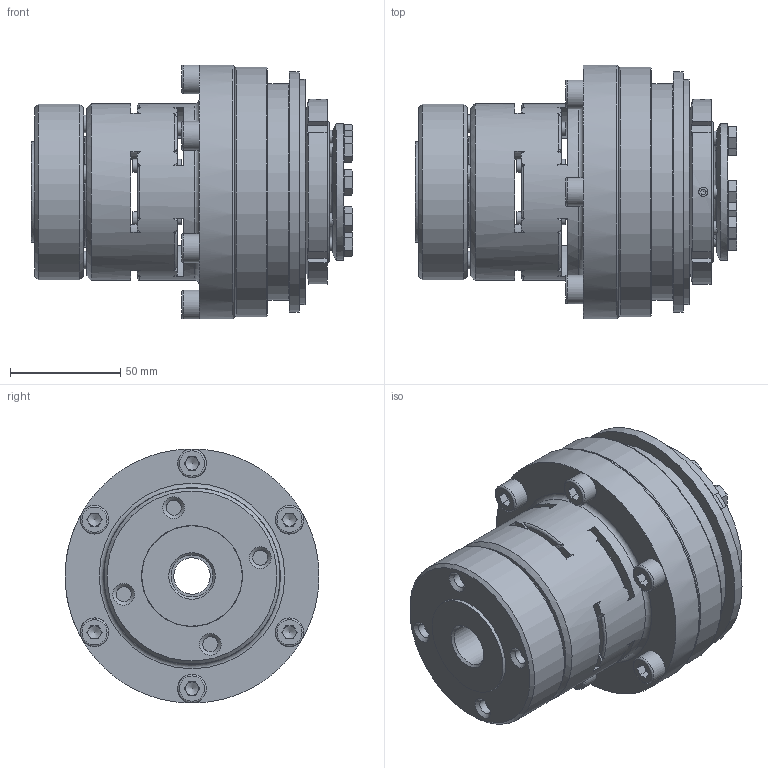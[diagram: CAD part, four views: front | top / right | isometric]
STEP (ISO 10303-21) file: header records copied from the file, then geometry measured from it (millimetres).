
FILE_DESCRIPTION( ( 'Unknown' ), '1' );
FILE_NAME( 'F:/JAKOB-STEP+IGES-Dateien/STEP-Dateien/SKY-ES/SKY-ES 230.stp', 'Unknown', ( 'Unknown' ), ( 'Unknown' ), 'PSStep 10.1', 'Unknown', ' ' );
FILE_SCHEMA( ( 'AUTOMOTIVE_DESIGN { 1 0 10303 214 1 1 1 1 }' ) );
Length unit declared in the file: millimetre
Products named in the file (1): kt100627
Bounding box: 145.5 x 115 x 115 mm (x, y, z)
Volume: 736816.6 mm3; surface area: 174242.8 mm2
Topology: 1 solids, 15 shells, 737 faces, 1951 edges, 1251 vertices
Faces by surface type: plane 318, cylinder 194, cone 132, torus 77, sphere 12, bspline 4
Full cylindrical faces by diameter (mm): 2.5 x2, 4.2 x3, 5 x9, 6 x14, 6.3 x6, 6.8 x14, 8 x10, 8.5 x4, 8.6 x6, 8.7 x6, 13 x10, 13.5 x4, 16.5 x1, 18 x1, 19 x1, 26.5 x1, 29.5 x1, 38 x2, 38.5 x1, 41.4 x1, 46 x1, 47.5 x1, 49 x1, 49.8 x1, 50 x2, 50.1 x1, 62 x2, 62.5 x2, 65 x2, 65.1 x1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
Entity records: 28586 total; most frequent: CARTESIAN_POINT 6270, DIRECTION 3418, ORIENTED_EDGE 3124, EDGE_CURVE 1562, AXIS2_PLACEMENT_3D 1473, VERTEX_POINT 1105, EDGE_LOOP 1085, FACE_OUTER_BOUND 885
